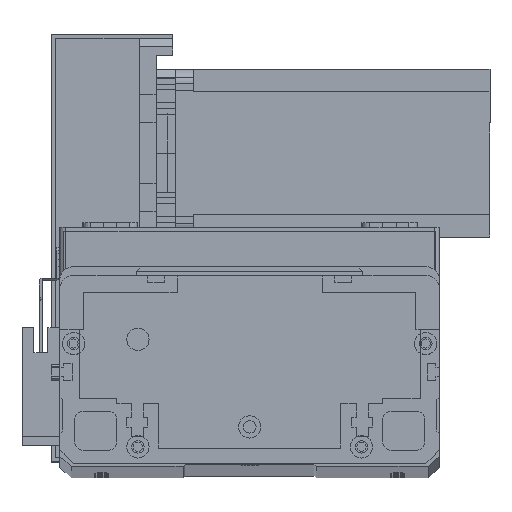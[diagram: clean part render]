
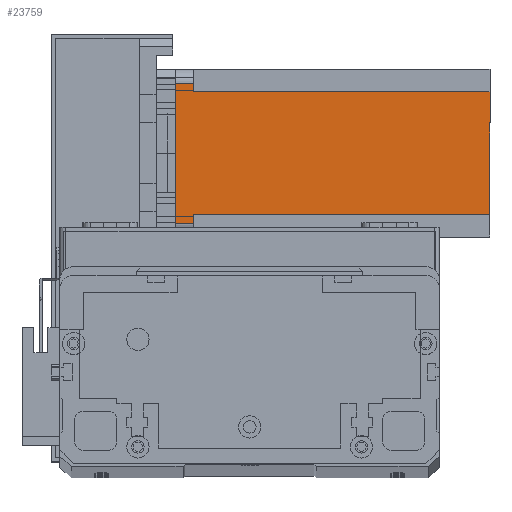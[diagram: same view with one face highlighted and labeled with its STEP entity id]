
A CAD part, top view. The second image highlights one B-rep face of the part: STEP entity #23759.
In plain terms, the highlighted planar face has unit normal (0, 0, 1) as drawn and (0, -1, 0) by its records, which use the part's own axes.
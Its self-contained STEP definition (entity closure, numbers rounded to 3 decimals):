
#1357 = ORIENTED_EDGE ( 'NONE', *, *, #15854, .T. ) ;
#2158 = ORIENTED_EDGE ( 'NONE', *, *, #16122, .F. ) ;
#3083 = VECTOR ( 'NONE', #20867, 1000. ) ;
#3177 = VERTEX_POINT ( 'NONE', #14369 ) ;
#4211 = DIRECTION ( 'NONE',  ( 0., 0., -1. ) ) ;
#4301 = VERTEX_POINT ( 'NONE', #8200 ) ;
#4323 = CARTESIAN_POINT ( 'NONE',  ( 52., 0., -112.5 ) ) ;
#4511 = ORIENTED_EDGE ( 'NONE', *, *, #17027, .T. ) ;
#5548 = AXIS2_PLACEMENT_3D ( 'NONE', #26323, #10013, #26432 ) ;
#5723 = VERTEX_POINT ( 'NONE', #6295 ) ;
#6045 = VERTEX_POINT ( 'NONE', #10539 ) ;
#6170 = EDGE_CURVE ( 'NONE', #4301, #6045, #16950, .T. ) ;
#6295 = CARTESIAN_POINT ( 'NONE',  ( 8., 0., -112.5 ) ) ;
#7451 = VECTOR ( 'NONE', #4211, 1000. ) ;
#7582 = PLANE ( 'NONE',  #5548 ) ;
#7638 = DIRECTION ( 'NONE',  ( 1., 0., 0. ) ) ;
#7882 = CARTESIAN_POINT ( 'NONE',  ( 0., 0., -112.5 ) ) ;
#8200 = CARTESIAN_POINT ( 'NONE',  ( 5., 0., 0. ) ) ;
#8261 = LINE ( 'NONE', #29088, #26303 ) ;
#8635 = VECTOR ( 'NONE', #26311, 1000. ) ;
#9434 = LINE ( 'NONE', #21751, #3083 ) ;
#10013 = DIRECTION ( 'NONE',  ( 0., -1., 0. ) ) ;
#10539 = CARTESIAN_POINT ( 'NONE',  ( 55., 0., 0. ) ) ;
#10932 = VECTOR ( 'NONE', #22808, 1000. ) ;
#11942 = ORIENTED_EDGE ( 'NONE', *, *, #16688, .F. ) ;
#12749 = ORIENTED_EDGE ( 'NONE', *, *, #17267, .F. ) ;
#13559 = CARTESIAN_POINT ( 'NONE',  ( 8., 0., -112.5 ) ) ;
#13770 = LINE ( 'NONE', #4323, #7451 ) ;
#13850 = DIRECTION ( 'NONE',  ( 0., 0., 1. ) ) ;
#14369 = CARTESIAN_POINT ( 'NONE',  ( 52., 0., -6.5 ) ) ;
#14865 = EDGE_CURVE ( 'NONE', #3177, #28632, #9434, .T. ) ;
#14925 = LINE ( 'NONE', #26391, #8635 ) ;
#15135 = FACE_OUTER_BOUND ( 'NONE', #15917, .T. ) ;
#15332 = CARTESIAN_POINT ( 'NONE',  ( 5., 0., -6.5 ) ) ;
#15433 = ORIENTED_EDGE ( 'NONE', *, *, #6170, .F. ) ;
#15639 = EDGE_CURVE ( 'NONE', #28632, #6045, #8261, .T. ) ;
#15854 = EDGE_CURVE ( 'NONE', #4301, #16602, #14925, .T. ) ;
#15917 = EDGE_LOOP ( 'NONE', ( #22210, #23114, #15433, #1357, #2158, #11942, #4511, #12749 ) ) ;
#16122 = EDGE_CURVE ( 'NONE', #28312, #16602, #28851, .T. ) ;
#16602 = VERTEX_POINT ( 'NONE', #15332 ) ;
#16615 = CARTESIAN_POINT ( 'NONE',  ( 55., 0., -6.5 ) ) ;
#16688 = EDGE_CURVE ( 'NONE', #5723, #28312, #20474, .T. ) ;
#16950 = LINE ( 'NONE', #17944, #22516 ) ;
#17027 = EDGE_CURVE ( 'NONE', #5723, #23532, #24154, .T. ) ;
#17267 = EDGE_CURVE ( 'NONE', #3177, #23532, #13770, .T. ) ;
#17660 = DIRECTION ( 'NONE',  ( 1., 0., 0. ) ) ;
#17944 = CARTESIAN_POINT ( 'NONE',  ( 0., 0., 0. ) ) ;
#18279 = CARTESIAN_POINT ( 'NONE',  ( 52., 0., -112.5 ) ) ;
#20474 = LINE ( 'NONE', #13559, #21187 ) ;
#20867 = DIRECTION ( 'NONE',  ( 1., 0., 0. ) ) ;
#21187 = VECTOR ( 'NONE', #13850, 1000. ) ;
#21751 = CARTESIAN_POINT ( 'NONE',  ( 52., 0., -6.5 ) ) ;
#22210 = ORIENTED_EDGE ( 'NONE', *, *, #14865, .T. ) ;
#22516 = VECTOR ( 'NONE', #17660, 1000. ) ;
#22766 = CARTESIAN_POINT ( 'NONE',  ( 8., 0., -6.5 ) ) ;
#22808 = DIRECTION ( 'NONE',  ( -1., 0., 0. ) ) ;
#23114 = ORIENTED_EDGE ( 'NONE', *, *, #15639, .T. ) ;
#23418 = VECTOR ( 'NONE', #7638, 1000. ) ;
#23532 = VERTEX_POINT ( 'NONE', #18279 ) ;
#23759 = ADVANCED_FACE ( 'NONE', ( #15135 ), #7582, .T. ) ;
#24154 = LINE ( 'NONE', #7882, #23418 ) ;
#26303 = VECTOR ( 'NONE', #29066, 1000. ) ;
#26311 = DIRECTION ( 'NONE',  ( 0., 0., -1. ) ) ;
#26323 = CARTESIAN_POINT ( 'NONE',  ( 0., 0., -112.5 ) ) ;
#26391 = CARTESIAN_POINT ( 'NONE',  ( 5., 0., -112.5 ) ) ;
#26432 = DIRECTION ( 'NONE',  ( 0., 0., -1. ) ) ;
#28312 = VERTEX_POINT ( 'NONE', #29180 ) ;
#28632 = VERTEX_POINT ( 'NONE', #16615 ) ;
#28851 = LINE ( 'NONE', #22766, #10932 ) ;
#29066 = DIRECTION ( 'NONE',  ( 0., 0., 1. ) ) ;
#29088 = CARTESIAN_POINT ( 'NONE',  ( 55., 0., -112.5 ) ) ;
#29180 = CARTESIAN_POINT ( 'NONE',  ( 8., 0., -6.5 ) ) ;
